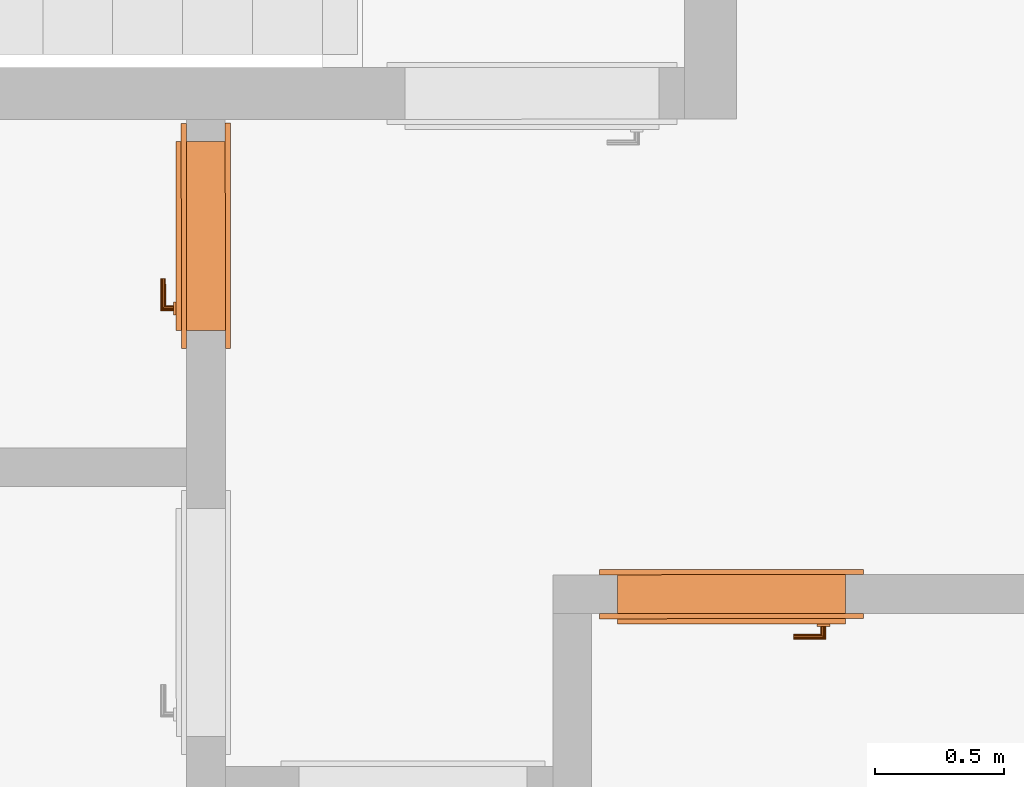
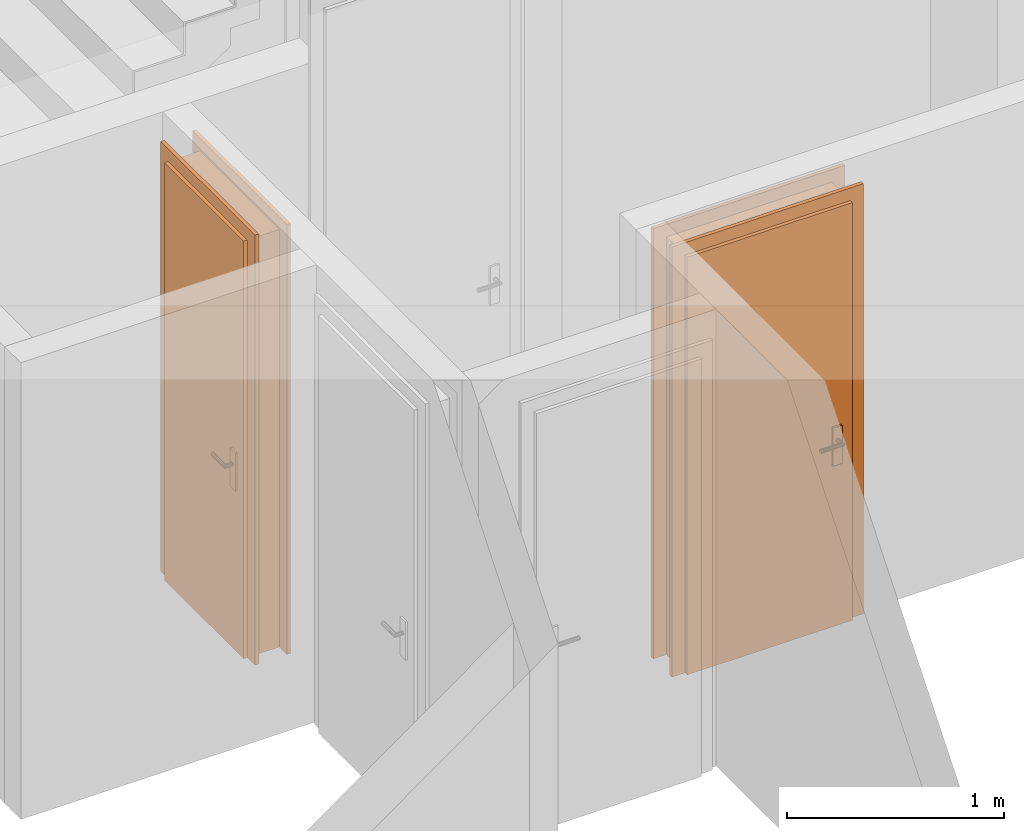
# One storey, part 5 of 9: 2 proxies.
"""IFC2X3 building model written with IfcOpenShell, lengths in metres."""

import ifcopenshell
import ifcopenshell.guid

model = None  # the IFC model being written
_history = None  # IfcOwnerHistory: only IFC2X3 demands one
_inside = {}  # id of a spatial element -> (the spatial element, [elements in it])
_under = {}  # id of a project, library or spatial element -> (it, [spatial elements below it])
_declared = {}  # id of a project -> (the project, [libraries it declares])
_typed = {}  # id of a type object -> (the type object, [elements of that type])
_made_of = {}  # id of a material, layer set ... -> (it, [elements and type objects made of it])


def new_model(schema):
    """Start an empty IFC model of exactly this schema.

    Asked for "IFC4X3", IfcOpenShell would pick the latest addendum, in which some entities
    have other attributes; the version numbers below select the first issue.
    IFC2X3 requires an IfcOwnerHistory on every rooted entity: one is made here for all.
    """
    global model, _history
    if schema == "IFC4X3":
        model = ifcopenshell.file(schema_version=(4, 3, 0, 0))
    else:
        model = ifcopenshell.file(schema=schema)
    _inside.clear()
    _under.clear()
    _declared.clear()
    _typed.clear()
    _made_of.clear()
    _history = None
    if model.schema == "IFC2X3":
        org = make("IfcOrganization", Name="unknown")
        user = make(
            "IfcPersonAndOrganization",
            ThePerson=make("IfcPerson", FamilyName="unknown"),
            TheOrganization=org,
        )
        app = make(
            "IfcApplication",
            ApplicationDeveloper=org,
            Version="unknown",
            ApplicationFullName="unknown",
            ApplicationIdentifier="unknown",
        )
        _history = make(
            "IfcOwnerHistory",
            OwningUser=user,
            OwningApplication=app,
            ChangeAction="ADDED",
            CreationDate=0,
        )
    return model


def make(cls, **values):
    """One entity of the class cls with the attributes given. An attribute that is None is left unset."""
    return model.create_entity(
        cls, **{name: value for name, value in values.items() if value is not None}
    )


def entity(cls, *values):
    """Any entity or typed value of the class cls, its attributes in the order of the schema. None: left unset."""
    e = model.create_entity(cls)
    for i, value in enumerate(values):
        if value is not None:
            e[i] = value
    return e


def rooted(cls, **values):
    """An entity with a GlobalId (a new one), such as an element, a storey or a relation."""
    return make(cls, GlobalId=ifcopenshell.guid.new(), OwnerHistory=_history, **values)


def si_unit(unit_type, name, prefix=None):
    """IfcSIUnit, for example si_unit("LENGTHUNIT", "METRE", prefix="MILLI")."""
    return make("IfcSIUnit", UnitType=unit_type, Prefix=prefix, Name=name)


def converted_unit(unit_type, name, factor, base, dimensions=None, offset=None):
    """IfcConversionBasedUnit, such as the inch: factor (a typed value) times the base unit."""
    return make(
        "IfcConversionBasedUnit"
        if offset is None
        else "IfcConversionBasedUnitWithOffset",
        ConversionOffset=offset,
        Dimensions=None
        if dimensions is None
        else entity("IfcDimensionalExponents", *dimensions),
        UnitType=unit_type,
        Name=name,
        ConversionFactor=make(
            "IfcMeasureWithUnit", ValueComponent=factor, UnitComponent=base
        ),
    )


def derived_unit(unit_type, elements):
    """IfcDerivedUnit: a product of units, each with its exponent."""
    return make(
        "IfcDerivedUnit",
        Elements=[
            make("IfcDerivedUnitElement", Unit=unit, Exponent=power)
            for unit, power in elements
        ],
        UnitType=unit_type,
    )


def assignment(units):
    """IfcUnitAssignment: the units of a project."""
    return None if units is None else make("IfcUnitAssignment", Units=units)


def point(xyz):
    """IfcCartesianPoint."""
    return None if xyz is None else make("IfcCartesianPoint", Coordinates=xyz)


def direction(xyz):
    """IfcDirection."""
    return None if xyz is None else make("IfcDirection", DirectionRatios=xyz)


def frame(location, z_axis=None, x_axis=None):
    """IfcAxis2Placement3D, a coordinate frame: its origin and axes. An axis left out is left unset."""
    return make(
        "IfcAxis2Placement3D",
        Location=point(location),
        Axis=direction(z_axis),
        RefDirection=direction(x_axis),
    )


def origin():
    """The frame at (0, 0, 0) with its axes left unset."""
    return frame((0.0, 0.0, 0.0))


def origin_with_axes():
    """The frame at (0, 0, 0) with the z axis (0, 0, 1) and the x axis (1, 0, 0) written out."""
    return frame((0.0, 0.0, 0.0), z_axis=(0.0, 0.0, 1.0), x_axis=(1.0, 0.0, 0.0))


def place(relative_to, where):
    """IfcLocalPlacement: puts the frame where relative to a parent placement (None: the world)."""
    return make(
        "IfcLocalPlacement", PlacementRelTo=relative_to, RelativePlacement=where
    )


def context(
    kind, dimensions, precision=None, world=None, true_north=None, identifier=None
):
    """IfcGeometricRepresentationContext, for example the 3D "Model" context."""
    return make(
        "IfcGeometricRepresentationContext",
        ContextIdentifier=identifier,
        ContextType=kind,
        CoordinateSpaceDimension=dimensions,
        Precision=precision,
        WorldCoordinateSystem=world,
        TrueNorth=true_north,
    )


def subcontext(parent, identifier, kind, view, scale=None):
    """IfcGeometricRepresentationSubContext, for example "Body" below "Model"."""
    return make(
        "IfcGeometricRepresentationSubContext",
        ContextIdentifier=identifier,
        ContextType=kind,
        ParentContext=parent,
        TargetScale=scale,
        TargetView=view,
    )


def project(units=None, contexts=None):
    """IfcProject with its units and contexts."""
    return rooted(
        "IfcProject",
        Name="project",
        RepresentationContexts=contexts,
        UnitsInContext=assignment(units),
    )


def spatial(cls, under=None, at=None, **own):
    """A site, building, storey or space (cls), placed at a placement, below another one or the project."""
    s = rooted(cls, ObjectPlacement=at, **own)
    if under is not None:
        _under.setdefault(under.id(), (under, []))[1].append(s)
    return s


def faces_of(points, faces, orient=None, outer=None):
    """IfcFace entities. A face is a list of loops; a loop is a list of indices into points, from 0.

    orient and outer hold one flag for each loop. By default every Orientation is true, the
    first loop of a face is its IfcFaceOuterBound and the others are IfcFaceBound.
    """
    made = []
    for i, loops in enumerate(faces):
        bounds = []
        for j, loop in enumerate(loops):
            is_outer = j == 0 if outer is None else outer[i][j]
            bounds.append(
                make(
                    "IfcFaceOuterBound" if is_outer else "IfcFaceBound",
                    Bound=make("IfcPolyLoop", Polygon=[points[k] for k in loop]),
                    Orientation=True if orient is None else orient[i][j],
                )
            )
        made.append(make("IfcFace", Bounds=bounds))
    return made


def faceted_brep(points, faces, orient=None, outer=None, voids=None):
    """IfcFacetedBrep: a solid bounded by flat faces; with voids (closed shells), ...WithVoids."""
    shared = [point(p) for p in points]
    hull = make("IfcClosedShell", CfsFaces=faces_of(shared, faces, orient, outer))
    if voids is None:
        return make("IfcFacetedBrep", Outer=hull)
    return make(
        "IfcFacetedBrepWithVoids",
        Outer=hull,
        Voids=[
            make(cls, CfsFaces=faces_of(shared, fs, o, b)) for cls, fs, o, b in voids
        ],
    )


def shape(context_of_items, identifier, shape_type, items):
    """IfcShapeRepresentation: the items that make up one representation, for example the "Body"."""
    return make(
        "IfcShapeRepresentation",
        ContextOfItems=context_of_items,
        RepresentationIdentifier=identifier,
        RepresentationType=shape_type,
        Items=items,
    )


def source(mapping_origin, context_of_items, identifier, shape_type, items):
    """IfcRepresentationMap: a shape defined once, which mapped items show again and again."""
    return make(
        "IfcRepresentationMap",
        MappingOrigin=mapping_origin,
        MappedRepresentation=shape(context_of_items, identifier, shape_type, items),
    )


def transform(
    local_origin,
    x_axis=None,
    y_axis=None,
    z_axis=None,
    scale=None,
    scale2=None,
    scale3=None,
    uniform=True,
):
    """IfcCartesianTransformationOperator3D, or its non-uniform kind. x_axis, y_axis, z_axis: its Axis1, 2, 3."""
    if uniform:
        return make(
            "IfcCartesianTransformationOperator3D",
            Axis1=direction(x_axis),
            Axis2=direction(y_axis),
            LocalOrigin=point(local_origin),
            Scale=scale,
            Axis3=direction(z_axis),
        )
    return make(
        "IfcCartesianTransformationOperator3DnonUniform",
        Axis1=direction(x_axis),
        Axis2=direction(y_axis),
        LocalOrigin=point(local_origin),
        Scale=scale,
        Axis3=direction(z_axis),
        Scale2=scale2,
        Scale3=scale3,
    )


def mapped(mapping_source, mapping_target):
    """IfcMappedItem: shows the shape of a source again, moved by a transform."""
    return make(
        "IfcMappedItem", MappingSource=mapping_source, MappingTarget=mapping_target
    )


def made_of(thing, what):
    """Note that an element or type object is made of a material, layer set ...; save() writes the relation."""
    if what is not None:
        _made_of.setdefault(what.id(), (what, []))[1].append(thing)
    return thing


def element(
    cls,
    number,
    at=None,
    inside=None,
    cuts=None,
    type_object=None,
    material=None,
    context=None,
    identifier="Body",
    shape_type=None,
    held_by="IfcProductDefinitionShape",
    body=None,
    shapes=None,
    **own,
):
    """One element of the class cls, such as IfcWall. Its Tag is "e" and its number.

    at: its placement. inside: the storey or other place that contains it. cuts: it is an
    opening in that element (IfcRelVoidsElement). A single representation is given by context,
    identifier, shape_type and body (its items); several are given by shapes. held_by: the class
    of the entity that holds the representations. save() writes the other relations.
    """
    e = rooted(cls, Tag="e%d" % number, ObjectPlacement=at, **own)
    if body is not None:
        shapes = [shape(context, identifier, shape_type, body)]
    if shapes is not None:
        e.Representation = make(held_by, Representations=shapes)
    if inside is not None:
        _inside.setdefault(inside.id(), (inside, []))[1].append(e)
    if cuts is not None:
        rooted(
            "IfcRelVoidsElement", RelatingBuildingElement=cuts, RelatedOpeningElement=e
        )
    if type_object is not None:
        _typed.setdefault(type_object.id(), (type_object, []))[1].append(e)
    return made_of(e, material)


def aggregate(whole, parts):
    """IfcRelAggregates: a whole, such as a stair, and the parts it consists of."""
    return rooted("IfcRelAggregates", RelatingObject=whole, RelatedObjects=parts)


def save(model, path):
    """Write the relations noted so far, then the file.

    IfcRelAggregates (storeys below a building ...), IfcRelContainedInSpatialStructure (elements
    in a storey), IfcRelDefinesByType, IfcRelAssociatesMaterial and IfcRelDeclares: one each for
    every whole, place, type object, material and project.
    """
    for whole, parts in _under.values():
        aggregate(whole, parts)
    for where, things in _inside.values():
        rooted(
            "IfcRelContainedInSpatialStructure",
            RelatedElements=things,
            RelatingStructure=where,
        )
    for kind, things in _typed.values():
        rooted("IfcRelDefinesByType", RelatedObjects=things, RelatingType=kind)
    for what, things in _made_of.values():
        rooted("IfcRelAssociatesMaterial", RelatedObjects=things, RelatingMaterial=what)
    for by, libraries in _declared.values():
        rooted("IfcRelDeclares", RelatingContext=by, RelatedDefinitions=libraries)
    model.write(path)


model = new_model("IFC2X3")

# Units and contexts
model_context = context("Model", 3, precision=1e-05, world=origin(), true_north=direction((0.772621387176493, -0.634867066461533)))
body_context = subcontext(model_context, "Body", "Model", "MODEL_VIEW")
ifc_project = project(units=[si_unit("LENGTHUNIT", "METRE"), si_unit("AREAUNIT", "SQUARE_METRE"), si_unit("VOLUMEUNIT", "CUBIC_METRE"), si_unit("MASSUNIT", "GRAM", prefix="KILO"), converted_unit("PLANEANGLEUNIT", "DEGREE", entity("IfcPlaneAngleMeasure", 0.0174532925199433), si_unit("PLANEANGLEUNIT", "RADIAN"), dimensions=[0, 0, 0, 0, 0, 0, 0]), derived_unit("THERMALTRANSMITTANCEUNIT", [(si_unit("POWERUNIT", "WATT"), 1), (si_unit("THERMODYNAMICTEMPERATUREUNIT", "KELVIN"), -1), (si_unit("LENGTHUNIT", "METRE"), -2)]), derived_unit("VOLUMETRICFLOWRATEUNIT", [(si_unit("LENGTHUNIT", "METRE"), 3), (converted_unit("TIMEUNIT", "hour", entity("IfcTimeMeasure", 3600.0), si_unit("TIMEUNIT", "SECOND"), dimensions=[0, 0, 1, 0, 0, 0, 0]), -1), (si_unit("LENGTHUNIT", "METRE"), -1)])], contexts=[model_context])

# Site, building, storey
site_placement = place(None, origin())
site = spatial("IfcSite", under=ifc_project, at=site_placement, Name="Modelle auf dem Nullpunkt", CompositionType="ELEMENT")
building_placement = place(site_placement, origin())
building = spatial("IfcBuilding", under=site, at=building_placement, Name="I", CompositionType="ELEMENT")
storey_placement = place(building_placement, origin())
storey = spatial("IfcBuildingStorey", under=building, at=storey_placement, Name="1.OG", CompositionType="ELEMENT", Elevation=0.0)

# Proxies
shared_shape_1 = source(origin_with_axes(), body_context, "Body", "Brep", [
    faceted_brep([(0.0700000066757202, 0.190000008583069, 2.35), (0.0700000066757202, 0.190000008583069, 0.0), (0.0900000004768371, 0.190000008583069, 0.0), (0.0900000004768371, 0.190000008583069, 2.35), (0.0700000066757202, 0.0, 0.0), (0.0700000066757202, 0.0, 2.35), (0.0900000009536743, 0.0, 2.35), (0.0900000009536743, 0.0, 0.0)], [[[0, 1, 2, 3]], [[4, 5, 6, 7]], [[1, 0, 5, 4]], [[2, 1, 4, 7]], [[3, 2, 7, 6]], [[0, 3, 6, 5]]], orient=[[False], [False], [False], [False], [False], [False]]),
    faceted_brep([(0.0700000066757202, 0.190000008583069, 2.42), (0.0, 0.190000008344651, 2.42), (0.0, 0.190000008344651, 0.0), (0.0700000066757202, 0.190000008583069, 0.0), (0.0700000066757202, 0.170000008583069, 0.0), (0.0, 0.170000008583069, 0.0), (0.0, 0.170000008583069, 2.42), (0.0700000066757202, 0.170000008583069, 2.42)], [[[0, 1, 2, 3]], [[4, 5, 6, 7]], [[3, 4, 7, 0]], [[2, 5, 4, 3]], [[1, 6, 5, 2]], [[0, 7, 6, 1]]], orient=[[False], [False], [False], [False], [False], [False]]),
    faceted_brep([(0.0700000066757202, 0.02, 2.42), (0.0, 0.0199999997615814, 2.42), (0.0, 0.0199999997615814, 0.0), (0.0700000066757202, 0.02, 0.0), (0.0700000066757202, 0.0, 0.0), (0.0, 0.0, 0.0), (0.0, 0.0, 2.42), (0.0700000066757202, 0.0, 2.42)], [[[0, 1, 2, 3]], [[4, 5, 6, 7]], [[3, 4, 7, 0]], [[2, 5, 4, 3]], [[1, 6, 5, 2]], [[0, 7, 6, 1]]], orient=[[False], [False], [False], [False], [False], [False]]),
    faceted_brep([(0.930000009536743, 0.190000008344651, 2.35), (0.930000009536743, 0.190000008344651, 0.0), (0.950000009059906, 0.190000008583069, 0.0), (0.950000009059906, 0.190000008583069, 2.35), (0.930000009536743, 0.0, 0.0), (0.930000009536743, 0.0, 2.35), (0.950000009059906, 0.0, 2.35), (0.950000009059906, 0.0, 0.0)], [[[0, 1, 2, 3]], [[4, 5, 6, 7]], [[1, 0, 5, 4]], [[2, 1, 4, 7]], [[3, 2, 7, 6]], [[0, 3, 6, 5]]], orient=[[False], [False], [False], [False], [False], [False]]),
    faceted_brep([(0.950000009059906, 0.190000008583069, 2.42), (0.950000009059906, 0.190000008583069, 0.0), (1.02000000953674, 0.190000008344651, 0.0), (1.02000000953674, 0.190000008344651, 2.42), (0.950000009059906, 0.170000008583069, 0.0), (0.950000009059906, 0.170000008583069, 2.42), (1.02000000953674, 0.170000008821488, 2.42), (1.02000000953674, 0.170000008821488, 0.0)], [[[0, 1, 2, 3]], [[4, 5, 6, 7]], [[1, 0, 5, 4]], [[2, 1, 4, 7]], [[3, 2, 7, 6]], [[0, 3, 6, 5]]], orient=[[False], [False], [False], [False], [False], [False]]),
    faceted_brep([(0.950000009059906, 0.0199999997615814, 2.42), (0.950000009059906, 0.0199999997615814, 0.0), (1.02000000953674, 0.0199999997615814, 0.0), (1.02000000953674, 0.0199999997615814, 2.42), (0.950000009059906, 0.0, 0.0), (0.950000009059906, 0.0, 2.42), (1.02000000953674, 0.0, 2.42), (1.02000000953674, 0.0, 0.0)], [[[0, 1, 2, 3]], [[4, 5, 6, 7]], [[1, 0, 5, 4]], [[2, 1, 4, 7]], [[3, 2, 7, 6]], [[0, 3, 6, 5]]], orient=[[False], [False], [False], [False], [False], [False]]),
    faceted_brep([(0.0900000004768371, 0.190000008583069, 2.35), (0.0900000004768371, 0.190000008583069, 2.33), (0.930000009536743, 0.190000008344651, 2.33), (0.930000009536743, 0.190000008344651, 2.35), (0.0900000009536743, 0.0, 2.33), (0.0900000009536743, 0.0, 2.35), (0.930000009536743, 0.0, 2.35), (0.930000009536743, 0.0, 2.33)], [[[0, 1, 2, 3]], [[4, 5, 6, 7]], [[1, 0, 5, 4]], [[2, 1, 4, 7]], [[3, 2, 7, 6]], [[0, 3, 6, 5]]], orient=[[False], [False], [False], [False], [False], [False]]),
    faceted_brep([(0.0700000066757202, 0.190000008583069, 2.42), (0.0700000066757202, 0.190000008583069, 2.35), (0.950000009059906, 0.190000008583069, 2.35), (0.950000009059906, 0.190000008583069, 2.42), (0.0700000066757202, 0.170000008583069, 2.35), (0.0700000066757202, 0.170000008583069, 2.42), (0.950000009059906, 0.170000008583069, 2.42), (0.950000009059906, 0.170000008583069, 2.35)], [[[0, 1, 2, 3]], [[4, 5, 6, 7]], [[1, 0, 5, 4]], [[2, 1, 4, 7]], [[3, 2, 7, 6]], [[0, 3, 6, 5]]], orient=[[False], [False], [False], [False], [False], [False]]),
    faceted_brep([(0.0700000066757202, 0.02, 2.42), (0.0700000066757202, 0.02, 2.35), (0.950000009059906, 0.0199999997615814, 2.35), (0.950000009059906, 0.0199999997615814, 2.42), (0.0700000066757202, 0.0, 2.35), (0.0700000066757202, 0.0, 2.42), (0.950000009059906, 0.0, 2.42), (0.950000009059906, 0.0, 2.35)], [[[0, 1, 2, 3]], [[4, 5, 6, 7]], [[1, 0, 5, 4]], [[2, 1, 4, 7]], [[3, 2, 7, 6]], [[0, 3, 6, 5]]], orient=[[False], [False], [False], [False], [False], [False]]),
    faceted_brep([(0.0700000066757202, 0.210000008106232, 2.35), (0.0700000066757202, 0.210000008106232, 0.0), (0.950000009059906, 0.210000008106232, 0.0), (0.950000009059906, 0.210000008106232, 2.35), (0.0700000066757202, 0.170000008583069, 0.0), (0.0700000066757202, 0.170000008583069, 2.35), (0.950000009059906, 0.170000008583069, 2.35), (0.950000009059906, 0.170000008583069, 0.0)], [[[0, 1, 2, 3]], [[4, 5, 6, 7]], [[1, 0, 5, 4]], [[2, 1, 4, 7]], [[3, 2, 7, 6]], [[0, 3, 6, 5]]], orient=[[False], [False], [False], [False], [False], [False]]),
    faceted_brep([(0.130000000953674, 0.170000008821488, 1.125), (0.130000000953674, 0.170000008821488, 0.91), (0.180000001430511, 0.170000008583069, 0.91), (0.180000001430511, 0.170000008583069, 1.125), (0.130000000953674, 0.160000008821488, 0.91), (0.130000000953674, 0.160000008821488, 1.125), (0.180000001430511, 0.160000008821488, 1.125), (0.180000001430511, 0.160000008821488, 0.91)], [[[0, 1, 2, 3]], [[4, 5, 6, 7]], [[1, 0, 5, 4]], [[2, 1, 4, 7]], [[3, 2, 7, 6]], [[0, 3, 6, 5]]], orient=[[False], [False], [False], [False], [False], [False]]),
    faceted_brep([(0.155000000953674, 0.160000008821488, 1.06), (0.150000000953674, 0.160000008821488, 1.05866025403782), (0.14633974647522, 0.160000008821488, 1.055), (0.145000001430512, 0.160000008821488, 1.05), (0.14633974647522, 0.160000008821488, 1.045), (0.150000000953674, 0.160000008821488, 1.04133974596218), (0.155000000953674, 0.160000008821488, 1.04), (0.160000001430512, 0.160000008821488, 1.04133974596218), (0.163660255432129, 0.160000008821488, 1.045), (0.165000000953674, 0.160000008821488, 1.05), (0.163660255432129, 0.160000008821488, 1.055), (0.160000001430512, 0.160000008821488, 1.05866025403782), (0.155000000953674, 0.120000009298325, 1.06), (0.150000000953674, 0.115000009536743, 1.05866025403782), (0.146339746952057, 0.111339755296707, 1.055), (0.145000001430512, 0.110000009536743, 1.05), (0.146339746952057, 0.111339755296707, 1.045), (0.150000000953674, 0.115000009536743, 1.04133974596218), (0.155000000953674, 0.120000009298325, 1.04), (0.160000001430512, 0.125000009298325, 1.04133974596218), (0.163660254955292, 0.128660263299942, 1.045), (0.165000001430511, 0.130000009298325, 1.05), (0.163660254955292, 0.128660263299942, 1.055), (0.160000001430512, 0.125000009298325, 1.05866025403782), (0.270000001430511, 0.120000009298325, 1.06), (0.270000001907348, 0.125000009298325, 1.05866025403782), (0.270000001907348, 0.128660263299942, 1.055), (0.270000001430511, 0.130000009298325, 1.05), (0.270000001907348, 0.128660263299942, 1.045), (0.270000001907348, 0.125000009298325, 1.04133974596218), (0.270000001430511, 0.120000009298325, 1.04), (0.270000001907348, 0.115000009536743, 1.04133974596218), (0.270000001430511, 0.111339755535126, 1.045), (0.270000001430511, 0.110000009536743, 1.05), (0.270000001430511, 0.111339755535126, 1.055), (0.270000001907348, 0.115000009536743, 1.05866025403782)], [[[0, 1, 2, 3, 4, 5, 6, 7, 8, 9, 10, 11]], [[0, 12, 13, 1]], [[1, 13, 14, 2]], [[2, 14, 15, 3]], [[3, 15, 16, 4]], [[4, 16, 17, 5]], [[5, 17, 18, 6]], [[6, 18, 19, 7]], [[7, 19, 20, 8]], [[8, 20, 21, 9]], [[9, 21, 22, 10]], [[10, 22, 23, 11]], [[11, 23, 12, 0]], [[24, 25, 26, 27, 28, 29, 30, 31, 32, 33, 34, 35]], [[12, 24, 35, 13]], [[13, 35, 34, 14]], [[14, 34, 33, 15]], [[15, 33, 32, 16]], [[16, 32, 31, 17]], [[17, 31, 30, 18]], [[18, 30, 29, 19]], [[19, 29, 28, 20]], [[20, 28, 27, 21]], [[21, 27, 26, 22]], [[22, 26, 25, 23]], [[23, 25, 24, 12]]], orient=[[False], [False], [False], [False], [False], [False], [False], [False], [False], [False], [False], [False], [False], [False], [False], [False], [False], [False], [False], [False], [False], [False], [False], [False], [False], [False]]),
    faceted_brep([(0.130000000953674, 0.210000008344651, 1.125), (0.180000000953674, 0.210000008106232, 1.125), (0.180000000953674, 0.210000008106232, 0.91), (0.130000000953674, 0.210000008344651, 0.91), (0.130000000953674, 0.220000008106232, 0.91), (0.180000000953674, 0.220000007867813, 0.91), (0.180000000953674, 0.220000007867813, 1.125), (0.130000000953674, 0.220000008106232, 1.125)], [[[0, 1, 2, 3]], [[4, 5, 6, 7]], [[3, 4, 7, 0]], [[2, 5, 4, 3]], [[1, 6, 5, 2]], [[0, 7, 6, 1]]], orient=[[False], [False], [False], [False], [False], [False]]),
    faceted_brep([(0.155000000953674, 0.220000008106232, 1.06), (0.160000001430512, 0.220000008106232, 1.05866025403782), (0.163660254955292, 0.220000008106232, 1.055), (0.165000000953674, 0.220000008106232, 1.05), (0.163660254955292, 0.220000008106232, 1.045), (0.160000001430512, 0.220000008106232, 1.04133974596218), (0.155000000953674, 0.220000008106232, 1.04), (0.150000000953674, 0.220000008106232, 1.04133974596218), (0.14633974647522, 0.220000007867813, 1.045), (0.145000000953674, 0.220000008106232, 1.05), (0.14633974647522, 0.220000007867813, 1.055), (0.150000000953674, 0.220000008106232, 1.05866025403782), (0.150000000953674, 0.265000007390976, 1.05866025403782), (0.155000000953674, 0.260000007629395, 1.06), (0.14633974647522, 0.268660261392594, 1.055), (0.145000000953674, 0.270000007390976, 1.05), (0.14633974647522, 0.268660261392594, 1.045), (0.150000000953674, 0.265000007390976, 1.04133974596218), (0.155000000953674, 0.260000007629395, 1.04), (0.160000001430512, 0.255000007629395, 1.04133974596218), (0.163660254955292, 0.251339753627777, 1.045), (0.165000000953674, 0.250000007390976, 1.05), (0.163660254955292, 0.251339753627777, 1.055), (0.160000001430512, 0.255000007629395, 1.05866025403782), (0.270000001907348, 0.260000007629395, 1.06), (0.270000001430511, 0.265000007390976, 1.05866025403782), (0.270000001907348, 0.268660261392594, 1.055), (0.270000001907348, 0.270000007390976, 1.05), (0.270000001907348, 0.268660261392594, 1.045), (0.270000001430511, 0.265000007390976, 1.04133974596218), (0.270000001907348, 0.260000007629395, 1.04), (0.270000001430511, 0.255000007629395, 1.04133974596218), (0.270000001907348, 0.251339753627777, 1.045), (0.270000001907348, 0.250000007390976, 1.05), (0.270000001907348, 0.251339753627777, 1.055), (0.270000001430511, 0.255000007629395, 1.05866025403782)], [[[0, 1, 2, 3, 4, 5, 6, 7, 8, 9, 10, 11]], [[0, 11, 12, 13]], [[11, 10, 14, 12]], [[10, 9, 15, 14]], [[9, 8, 16, 15]], [[8, 7, 17, 16]], [[7, 6, 18, 17]], [[6, 5, 19, 18]], [[5, 4, 20, 19]], [[4, 3, 21, 20]], [[3, 2, 22, 21]], [[2, 1, 23, 22]], [[1, 0, 13, 23]], [[24, 25, 26, 27, 28, 29, 30, 31, 32, 33, 34, 35]], [[13, 12, 25, 24]], [[12, 14, 26, 25]], [[14, 15, 27, 26]], [[15, 16, 28, 27]], [[16, 17, 29, 28]], [[17, 18, 30, 29]], [[18, 19, 31, 30]], [[19, 20, 32, 31]], [[20, 21, 33, 32]], [[21, 22, 34, 33]], [[22, 23, 35, 34]], [[23, 13, 24, 35]]], orient=[[False], [False], [False], [False], [False], [False], [False], [False], [False], [False], [False], [False], [False], [False], [False], [False], [False], [False], [False], [False], [False], [False], [False], [False], [False], [False]]),
])
proxy_1_placement = place(storey_placement, frame((34.7536193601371, -2.59148210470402, 438.82), z_axis=(0.0, 0.0, 1.0), x_axis=(-0.999999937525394, -0.000353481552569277, 0.0)))
element("IfcBuildingElementProxy", 1, at=proxy_1_placement, inside=storey, Name="1flg Weiß UZ außen", context=body_context, shape_type="MappedRepresentation", body=[
    mapped(shared_shape_1, transform((0.0, 0.0, 0.0), x_axis=(1.0, 0.0, 0.0), y_axis=(0.0, 1.0, 0.0), z_axis=(0.0, 0.0, 1.0), scale=1.0)),
])
shared_shape_2 = source(origin_with_axes(), body_context, "Body", "Brep", [
    faceted_brep([(0.0700000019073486, 0.190000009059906, 2.35), (0.0700000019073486, 0.190000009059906, 0.0), (0.0900000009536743, 0.190000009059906, 0.0), (0.0900000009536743, 0.190000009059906, 2.35), (0.0700000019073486, 0.0, 0.0), (0.0700000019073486, 0.0, 2.35), (0.0900000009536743, 0.0, 2.35), (0.0900000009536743, 0.0, 0.0)], [[[0, 1, 2, 3]], [[4, 5, 6, 7]], [[1, 0, 5, 4]], [[2, 1, 4, 7]], [[3, 2, 7, 6]], [[0, 3, 6, 5]]], orient=[[False], [False], [False], [False], [False], [False]]),
    faceted_brep([(0.0700000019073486, 0.190000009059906, 2.42), (0.0, 0.190000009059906, 2.42), (0.0, 0.190000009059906, 0.0), (0.0700000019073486, 0.190000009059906, 0.0), (0.0700000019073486, 0.170000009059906, 0.0), (0.0, 0.170000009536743, 0.0), (0.0, 0.170000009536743, 2.42), (0.0700000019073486, 0.170000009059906, 2.42)], [[[0, 1, 2, 3]], [[4, 5, 6, 7]], [[3, 4, 7, 0]], [[2, 5, 4, 3]], [[1, 6, 5, 2]], [[0, 7, 6, 1]]], orient=[[False], [False], [False], [False], [False], [False]]),
    faceted_brep([(0.0700000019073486, 0.0199999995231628, 2.42), (0.0, 0.02, 2.42), (0.0, 0.02, 0.0), (0.0700000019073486, 0.0199999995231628, 0.0), (0.0700000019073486, 0.0, 0.0), (0.0, 0.0, 0.0), (0.0, 0.0, 2.42), (0.0700000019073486, 0.0, 2.42)], [[[0, 1, 2, 3]], [[4, 5, 6, 7]], [[3, 4, 7, 0]], [[2, 5, 4, 3]], [[1, 6, 5, 2]], [[0, 7, 6, 1]]], orient=[[False], [False], [False], [False], [False], [False]]),
    faceted_brep([(0.780000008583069, 0.190000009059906, 2.35), (0.780000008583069, 0.190000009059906, 0.0), (0.800000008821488, 0.190000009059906, 0.0), (0.800000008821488, 0.190000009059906, 2.35), (0.780000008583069, 0.0, 0.0), (0.780000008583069, 0.0, 2.35), (0.800000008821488, 0.0, 2.35), (0.800000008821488, 0.0, 0.0)], [[[0, 1, 2, 3]], [[4, 5, 6, 7]], [[1, 0, 5, 4]], [[2, 1, 4, 7]], [[3, 2, 7, 6]], [[0, 3, 6, 5]]], orient=[[False], [False], [False], [False], [False], [False]]),
    faceted_brep([(0.800000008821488, 0.190000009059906, 2.42), (0.800000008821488, 0.190000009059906, 0.0), (0.870000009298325, 0.190000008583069, 0.0), (0.870000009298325, 0.190000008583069, 2.42), (0.800000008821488, 0.170000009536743, 0.0), (0.800000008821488, 0.170000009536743, 2.42), (0.870000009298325, 0.170000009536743, 2.42), (0.870000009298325, 0.170000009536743, 0.0)], [[[0, 1, 2, 3]], [[4, 5, 6, 7]], [[1, 0, 5, 4]], [[2, 1, 4, 7]], [[3, 2, 7, 6]], [[0, 3, 6, 5]]], orient=[[False], [False], [False], [False], [False], [False]]),
    faceted_brep([(0.800000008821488, 0.0199999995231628, 2.42), (0.800000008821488, 0.0199999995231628, 0.0), (0.870000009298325, 0.0199999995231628, 0.0), (0.870000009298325, 0.0199999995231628, 2.42), (0.800000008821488, 0.0, 0.0), (0.800000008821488, 0.0, 2.42), (0.870000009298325, 0.0, 2.42), (0.870000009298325, 0.0, 0.0)], [[[0, 1, 2, 3]], [[4, 5, 6, 7]], [[1, 0, 5, 4]], [[2, 1, 4, 7]], [[3, 2, 7, 6]], [[0, 3, 6, 5]]], orient=[[False], [False], [False], [False], [False], [False]]),
    faceted_brep([(0.0900000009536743, 0.190000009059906, 2.35), (0.0900000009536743, 0.190000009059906, 2.33), (0.780000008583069, 0.190000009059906, 2.33), (0.780000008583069, 0.190000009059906, 2.35), (0.0900000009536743, 0.0, 2.33), (0.0900000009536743, 0.0, 2.35), (0.780000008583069, 0.0, 2.35), (0.780000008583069, 0.0, 2.33)], [[[0, 1, 2, 3]], [[4, 5, 6, 7]], [[1, 0, 5, 4]], [[2, 1, 4, 7]], [[3, 2, 7, 6]], [[0, 3, 6, 5]]], orient=[[False], [False], [False], [False], [False], [False]]),
    faceted_brep([(0.0700000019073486, 0.190000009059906, 2.42), (0.0700000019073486, 0.190000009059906, 2.35), (0.800000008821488, 0.190000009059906, 2.35), (0.800000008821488, 0.190000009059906, 2.42), (0.0700000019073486, 0.170000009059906, 2.35), (0.0700000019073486, 0.170000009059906, 2.42), (0.800000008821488, 0.170000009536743, 2.42), (0.800000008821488, 0.170000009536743, 2.35)], [[[0, 1, 2, 3]], [[4, 5, 6, 7]], [[1, 0, 5, 4]], [[2, 1, 4, 7]], [[3, 2, 7, 6]], [[0, 3, 6, 5]]], orient=[[False], [False], [False], [False], [False], [False]]),
    faceted_brep([(0.0700000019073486, 0.0199999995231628, 2.42), (0.0700000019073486, 0.0199999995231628, 2.35), (0.800000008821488, 0.0199999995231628, 2.35), (0.800000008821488, 0.0199999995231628, 2.42), (0.0700000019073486, 0.0, 2.35), (0.0700000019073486, 0.0, 2.42), (0.800000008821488, 0.0, 2.42), (0.800000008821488, 0.0, 2.35)], [[[0, 1, 2, 3]], [[4, 5, 6, 7]], [[1, 0, 5, 4]], [[2, 1, 4, 7]], [[3, 2, 7, 6]], [[0, 3, 6, 5]]], orient=[[False], [False], [False], [False], [False], [False]]),
    faceted_brep([(0.0700000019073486, 0.210000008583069, 2.35), (0.0700000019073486, 0.210000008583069, 0.0), (0.800000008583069, 0.210000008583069, 0.0), (0.800000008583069, 0.210000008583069, 2.35), (0.0700000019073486, 0.170000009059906, 0.0), (0.0700000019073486, 0.170000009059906, 2.35), (0.800000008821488, 0.170000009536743, 2.35), (0.800000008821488, 0.170000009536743, 0.0)], [[[0, 1, 2, 3]], [[4, 5, 6, 7]], [[1, 0, 5, 4]], [[2, 1, 4, 7]], [[3, 2, 7, 6]], [[0, 3, 6, 5]]], orient=[[False], [False], [False], [False], [False], [False]]),
    faceted_brep([(0.130000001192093, 0.170000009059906, 1.125), (0.130000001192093, 0.170000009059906, 0.91), (0.180000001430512, 0.170000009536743, 0.91), (0.180000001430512, 0.170000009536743, 1.125), (0.130000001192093, 0.160000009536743, 0.91), (0.130000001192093, 0.160000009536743, 1.125), (0.180000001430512, 0.160000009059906, 1.125), (0.180000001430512, 0.160000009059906, 0.91)], [[[0, 1, 2, 3]], [[4, 5, 6, 7]], [[1, 0, 5, 4]], [[2, 1, 4, 7]], [[3, 2, 7, 6]], [[0, 3, 6, 5]]], orient=[[False], [False], [False], [False], [False], [False]]),
    faceted_brep([(0.155000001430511, 0.160000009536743, 1.06), (0.150000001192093, 0.160000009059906, 1.05866025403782), (0.146339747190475, 0.160000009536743, 1.055), (0.145000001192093, 0.160000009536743, 1.05), (0.146339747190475, 0.160000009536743, 1.045), (0.150000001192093, 0.160000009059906, 1.04133974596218), (0.155000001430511, 0.160000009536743, 1.04), (0.160000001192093, 0.160000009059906, 1.04133974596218), (0.16366025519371, 0.160000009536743, 1.045), (0.165000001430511, 0.160000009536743, 1.05), (0.16366025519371, 0.160000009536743, 1.055), (0.160000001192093, 0.160000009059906, 1.05866025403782), (0.155000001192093, 0.120000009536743, 1.06), (0.150000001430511, 0.11500001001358, 1.05866025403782), (0.146339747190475, 0.111339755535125, 1.055), (0.145000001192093, 0.110000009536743, 1.05), (0.146339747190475, 0.111339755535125, 1.045), (0.150000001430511, 0.11500001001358, 1.04133974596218), (0.155000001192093, 0.120000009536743, 1.04), (0.160000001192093, 0.125000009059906, 1.04133974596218), (0.163660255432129, 0.12866026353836, 1.045), (0.165000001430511, 0.130000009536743, 1.05), (0.163660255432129, 0.12866026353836, 1.055), (0.160000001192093, 0.125000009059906, 1.05866025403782), (0.270000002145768, 0.120000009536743, 1.06), (0.270000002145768, 0.125000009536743, 1.05866025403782), (0.270000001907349, 0.128660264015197, 1.055), (0.270000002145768, 0.130000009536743, 1.05), (0.270000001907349, 0.128660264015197, 1.045), (0.270000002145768, 0.125000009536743, 1.04133974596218), (0.270000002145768, 0.120000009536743, 1.04), (0.270000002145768, 0.11500001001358, 1.04133974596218), (0.270000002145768, 0.111339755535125, 1.045), (0.270000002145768, 0.110000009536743, 1.05), (0.270000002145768, 0.111339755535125, 1.055), (0.270000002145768, 0.11500001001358, 1.05866025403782)], [[[0, 1, 2, 3, 4, 5, 6, 7, 8, 9, 10, 11]], [[0, 12, 13, 1]], [[1, 13, 14, 2]], [[2, 14, 15, 3]], [[3, 15, 16, 4]], [[4, 16, 17, 5]], [[5, 17, 18, 6]], [[6, 18, 19, 7]], [[7, 19, 20, 8]], [[8, 20, 21, 9]], [[9, 21, 22, 10]], [[10, 22, 23, 11]], [[11, 23, 12, 0]], [[24, 25, 26, 27, 28, 29, 30, 31, 32, 33, 34, 35]], [[12, 24, 35, 13]], [[13, 35, 34, 14]], [[14, 34, 33, 15]], [[15, 33, 32, 16]], [[16, 32, 31, 17]], [[17, 31, 30, 18]], [[18, 30, 29, 19]], [[19, 29, 28, 20]], [[20, 28, 27, 21]], [[21, 27, 26, 22]], [[22, 26, 25, 23]], [[23, 25, 24, 12]]], orient=[[False], [False], [False], [False], [False], [False], [False], [False], [False], [False], [False], [False], [False], [False], [False], [False], [False], [False], [False], [False], [False], [False], [False], [False], [False], [False]]),
    faceted_brep([(0.130000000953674, 0.210000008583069, 1.125), (0.18000000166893, 0.210000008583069, 1.125), (0.18000000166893, 0.210000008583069, 0.91), (0.130000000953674, 0.210000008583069, 0.91), (0.130000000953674, 0.220000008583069, 0.91), (0.18000000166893, 0.220000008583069, 0.91), (0.18000000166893, 0.220000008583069, 1.125), (0.130000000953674, 0.220000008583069, 1.125)], [[[0, 1, 2, 3]], [[4, 5, 6, 7]], [[3, 4, 7, 0]], [[2, 5, 4, 3]], [[1, 6, 5, 2]], [[0, 7, 6, 1]]], orient=[[False], [False], [False], [False], [False], [False]]),
    faceted_brep([(0.155000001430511, 0.220000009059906, 1.06), (0.160000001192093, 0.220000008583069, 1.05866025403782), (0.163660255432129, 0.220000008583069, 1.055), (0.165000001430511, 0.220000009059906, 1.05), (0.163660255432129, 0.220000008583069, 1.045), (0.160000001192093, 0.220000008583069, 1.04133974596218), (0.155000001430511, 0.220000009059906, 1.04), (0.150000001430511, 0.220000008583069, 1.04133974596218), (0.146339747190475, 0.220000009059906, 1.045), (0.145000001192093, 0.220000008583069, 1.05), (0.146339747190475, 0.220000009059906, 1.055), (0.150000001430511, 0.220000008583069, 1.05866025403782), (0.150000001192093, 0.265000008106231, 1.05866025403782), (0.155000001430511, 0.260000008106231, 1.06), (0.146339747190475, 0.268660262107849, 1.055), (0.145000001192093, 0.270000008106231, 1.05), (0.146339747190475, 0.268660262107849, 1.045), (0.150000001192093, 0.265000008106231, 1.04133974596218), (0.155000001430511, 0.260000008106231, 1.04), (0.160000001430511, 0.255000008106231, 1.04133974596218), (0.163660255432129, 0.251339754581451, 1.045), (0.165000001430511, 0.250000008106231, 1.05), (0.163660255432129, 0.251339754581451, 1.055), (0.160000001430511, 0.255000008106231, 1.05866025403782), (0.270000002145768, 0.260000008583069, 1.06), (0.270000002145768, 0.265000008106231, 1.05866025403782), (0.270000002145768, 0.268660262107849, 1.055), (0.270000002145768, 0.270000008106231, 1.05), (0.270000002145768, 0.268660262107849, 1.045), (0.270000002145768, 0.265000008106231, 1.04133974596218), (0.270000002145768, 0.260000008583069, 1.04), (0.270000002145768, 0.255000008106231, 1.04133974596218), (0.270000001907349, 0.251339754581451, 1.045), (0.270000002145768, 0.250000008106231, 1.05), (0.270000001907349, 0.251339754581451, 1.055), (0.270000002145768, 0.255000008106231, 1.05866025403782)], [[[0, 1, 2, 3, 4, 5, 6, 7, 8, 9, 10, 11]], [[0, 11, 12, 13]], [[11, 10, 14, 12]], [[10, 9, 15, 14]], [[9, 8, 16, 15]], [[8, 7, 17, 16]], [[7, 6, 18, 17]], [[6, 5, 19, 18]], [[5, 4, 20, 19]], [[4, 3, 21, 20]], [[3, 2, 22, 21]], [[2, 1, 23, 22]], [[1, 0, 13, 23]], [[24, 25, 26, 27, 28, 29, 30, 31, 32, 33, 34, 35]], [[13, 12, 25, 24]], [[12, 14, 26, 25]], [[14, 15, 27, 26]], [[15, 16, 28, 27]], [[16, 17, 29, 28]], [[17, 18, 30, 29]], [[18, 19, 31, 30]], [[19, 20, 32, 31]], [[20, 21, 33, 32]], [[21, 22, 34, 33]], [[22, 23, 35, 34]], [[23, 13, 24, 35]]], orient=[[False], [False], [False], [False], [False], [False], [False], [False], [False], [False], [False], [False], [False], [False], [False], [False], [False], [False], [False], [False], [False], [False], [False], [False], [False], [False]]),
])
proxy_2_placement = place(storey_placement, frame((32.3083172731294, -1.73734643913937, 438.82), z_axis=(0.0, 0.0, 1.0), x_axis=(-0.000353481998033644, 0.999999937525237, 0.0)))
element("IfcBuildingElementProxy", 2, at=proxy_2_placement, inside=storey, Name="1flg Weiß UZ außen", context=body_context, shape_type="MappedRepresentation", body=[
    mapped(shared_shape_2, transform((0.0, 0.0, 0.0), x_axis=(1.0, 0.0, 0.0), y_axis=(0.0, 1.0, 0.0), z_axis=(0.0, 0.0, 1.0), scale=1.0)),
])

save(model, "model.ifc")
